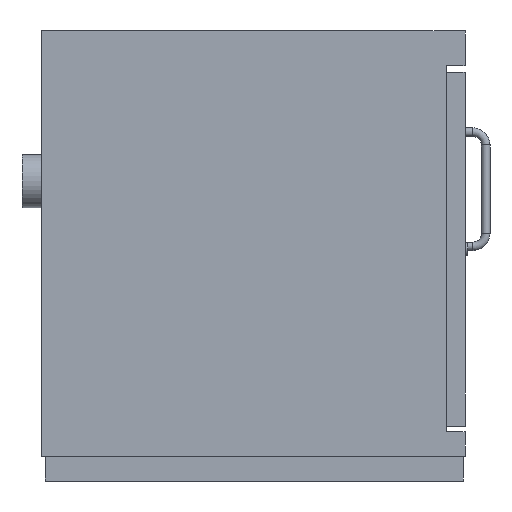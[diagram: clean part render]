
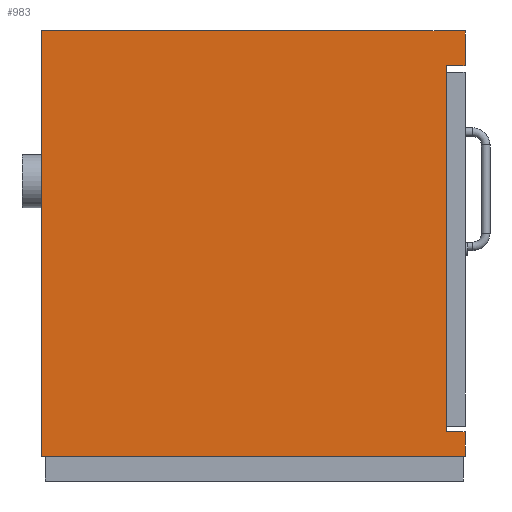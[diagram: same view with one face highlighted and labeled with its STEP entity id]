
A CAD part, left-side view. The second image highlights one B-rep face of the part: STEP entity #983.
In plain terms, the highlighted planar face has unit normal (-1, 0, 0).
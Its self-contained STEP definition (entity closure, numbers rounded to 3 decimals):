
#51=LINE('',#1363,#111);
#52=LINE('',#1365,#112);
#57=LINE('',#1375,#117);
#60=LINE('',#1381,#120);
#61=LINE('',#1383,#121);
#76=LINE('',#1416,#136);
#77=LINE('',#1418,#137);
#78=LINE('',#1420,#138);
#111=VECTOR('',#1180,1000.);
#112=VECTOR('',#1183,1000.);
#117=VECTOR('',#1190,1000.);
#120=VECTOR('',#1195,1000.);
#121=VECTOR('',#1198,1000.);
#136=VECTOR('',#1229,1000.);
#137=VECTOR('',#1232,1000.);
#138=VECTOR('',#1233,1000.);
#290=ORIENTED_EDGE('',*,*,#372,.F.);
#291=ORIENTED_EDGE('',*,*,#369,.T.);
#292=ORIENTED_EDGE('',*,*,#364,.T.);
#293=ORIENTED_EDGE('',*,*,#363,.F.);
#294=ORIENTED_EDGE('',*,*,#389,.F.);
#295=ORIENTED_EDGE('',*,*,#390,.T.);
#296=ORIENTED_EDGE('',*,*,#391,.T.);
#297=ORIENTED_EDGE('',*,*,#373,.F.);
#363=EDGE_CURVE('',#435,#432,#51,.T.);
#364=EDGE_CURVE('',#436,#432,#52,.T.);
#369=EDGE_CURVE('',#439,#436,#57,.T.);
#372=EDGE_CURVE('',#439,#441,#60,.T.);
#373=EDGE_CURVE('',#441,#442,#61,.T.);
#389=EDGE_CURVE('',#451,#435,#76,.T.);
#390=EDGE_CURVE('',#451,#452,#77,.T.);
#391=EDGE_CURVE('',#452,#442,#78,.T.);
#432=VERTEX_POINT('',#1357);
#435=VERTEX_POINT('',#1362);
#436=VERTEX_POINT('',#1366);
#439=VERTEX_POINT('',#1373);
#441=VERTEX_POINT('',#1379);
#442=VERTEX_POINT('',#1384);
#451=VERTEX_POINT('',#1415);
#452=VERTEX_POINT('',#1419);
#534=EDGE_LOOP('',(#290,#291,#292,#293,#294,#295,#296,#297));
#602=FACE_BOUND('',#534,.T.);
#636=PLANE('',#1050);
#983=ADVANCED_FACE('',(#602),#636,.F.);
#1050=AXIS2_PLACEMENT_3D('',#1417,#1230,#1231);
#1180=DIRECTION('',(0.,0.,-1.));
#1183=DIRECTION('',(0.,-1.,0.));
#1190=DIRECTION('',(0.,0.,1.));
#1195=DIRECTION('',(0.,-1.,0.));
#1198=DIRECTION('',(0.,0.,-1.));
#1229=DIRECTION('',(0.,-1.,0.));
#1230=DIRECTION('',(1.,0.,0.));
#1231=DIRECTION('',(0.,0.,-1.));
#1232=DIRECTION('',(0.,0.,-1.));
#1233=DIRECTION('',(0.,-1.,0.));
#1357=CARTESIAN_POINT('',(0.,0.,547.));
#1362=CARTESIAN_POINT('',(0.,0.,596.));
#1363=CARTESIAN_POINT('',(0.,0.,596.));
#1365=CARTESIAN_POINT('',(0.,26.,547.));
#1366=CARTESIAN_POINT('',(0.,26.,547.));
#1373=CARTESIAN_POINT('',(0.,26.,34.));
#1375=CARTESIAN_POINT('',(0.,26.,547.));
#1379=CARTESIAN_POINT('',(0.,0.,34.));
#1381=CARTESIAN_POINT('',(0.,26.,34.));
#1383=CARTESIAN_POINT('',(0.,0.,596.));
#1384=CARTESIAN_POINT('',(0.,0.,0.));
#1415=CARTESIAN_POINT('',(0.,593.5,596.));
#1416=CARTESIAN_POINT('',(0.,493.,596.));
#1417=CARTESIAN_POINT('',(0.,493.,596.));
#1418=CARTESIAN_POINT('',(0.,593.5,596.));
#1419=CARTESIAN_POINT('',(0.,593.5,0.));
#1420=CARTESIAN_POINT('',(0.,493.,0.));
